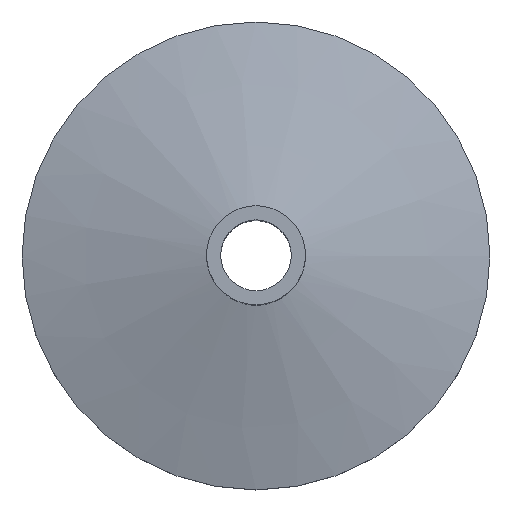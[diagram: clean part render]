
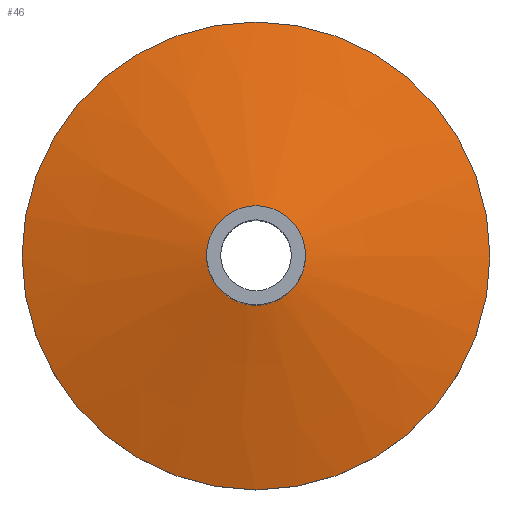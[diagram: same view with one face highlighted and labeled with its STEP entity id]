
A CAD part, top view. The second image highlights one B-rep face of the part: STEP entity #46.
In plain terms, the highlighted conical face has half-angle 75 degrees and reference radius 15 mm.
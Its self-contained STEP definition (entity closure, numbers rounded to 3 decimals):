
#46 = ADVANCED_FACE( '', ( #93, #94 ), #95, .T. );
#93 = FACE_BOUND( '', #132, .T. );
#94 = FACE_OUTER_BOUND( '', #133, .T. );
#95 = CONICAL_SURFACE( '', #134, 15., 1.309 );
#132 = EDGE_LOOP( '', ( #179 ) );
#133 = EDGE_LOOP( '', ( #180 ) );
#134 = AXIS2_PLACEMENT_3D( '', #181, #182, #183 );
#179 = ORIENTED_EDGE( '', *, *, #194, .F. );
#180 = ORIENTED_EDGE( '', *, *, #196, .T. );
#181 = CARTESIAN_POINT( '', ( 0., 0., 3. ) );
#182 = DIRECTION( '', ( 0., 0., -1. ) );
#183 = DIRECTION( '', ( -1., 0., 0. ) );
#194 = EDGE_CURVE( '', #215, #215, #216, .T. );
#196 = EDGE_CURVE( '', #218, #218, #219, .T. );
#215 = VERTEX_POINT( '', #239 );
#216 = CIRCLE( '', #240, 3.175 );
#218 = VERTEX_POINT( '', #242 );
#219 = CIRCLE( '', #243, 15. );
#239 = CARTESIAN_POINT( '', ( 3.175, 0., 6.168 ) );
#240 = AXIS2_PLACEMENT_3D( '', #263, #264, #265 );
#242 = CARTESIAN_POINT( '', ( 15., 0., 3. ) );
#243 = AXIS2_PLACEMENT_3D( '', #266, #267, #268 );
#263 = CARTESIAN_POINT( '', ( 0., 0., 6.168 ) );
#264 = DIRECTION( '', ( 0., 0., 1. ) );
#265 = DIRECTION( '', ( 1., 0., 0. ) );
#266 = CARTESIAN_POINT( '', ( 0., 0., 3. ) );
#267 = DIRECTION( '', ( 0., 0., 1. ) );
#268 = DIRECTION( '', ( 1., 0., 0. ) );
